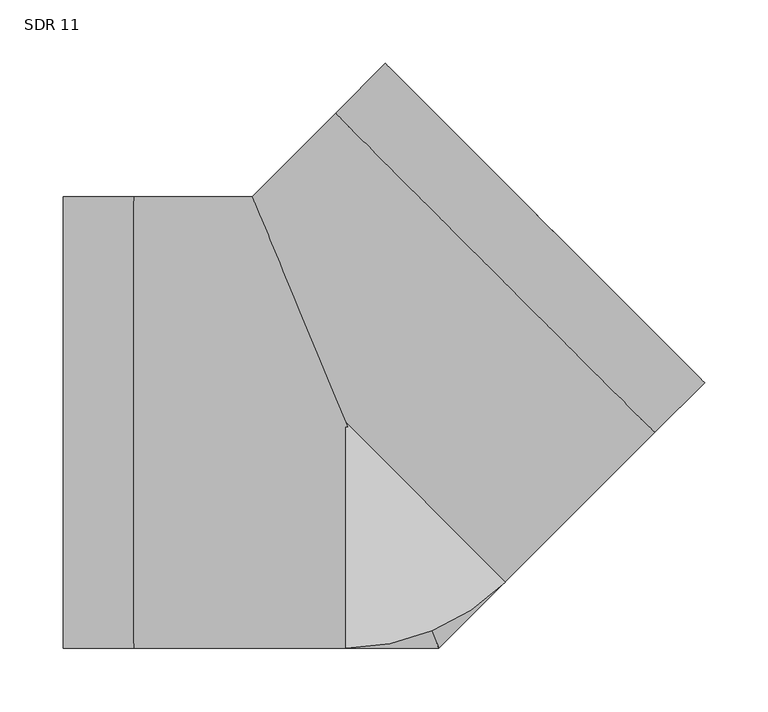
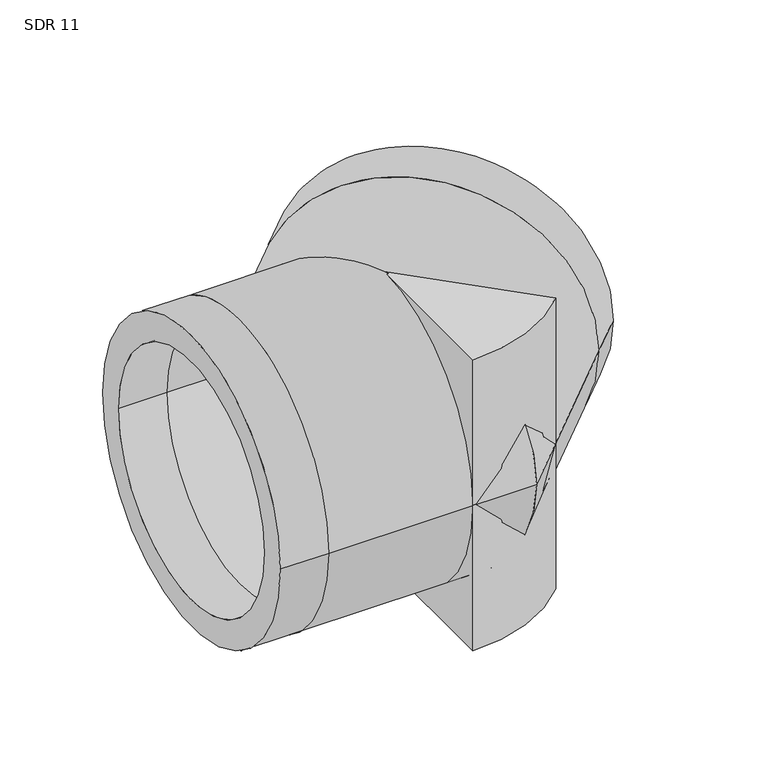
"""IFC4 building model written with IfcOpenShell, lengths in millimetres: pipe fitting geometry, Aquatherm - Elbow Blue BW Segmented : SDR 11."""

from ifc_helpers import new_model, si_unit, point, frame, origin, origin_with_axes, origin_2d, place, context, project, spatial, polyline, circle_curve, ellipse_curve, trimmed, segment, composite_curve, outline, extrude, source, transform, mapped, element, save
from ifc_brep_helpers import plane_surface, cylinder_surface, revolved_surface, advanced_brep


def sdr_11_767b1a7a(model_context):
    return source(origin(), model_context, "Body", "SolidModel", [
        extrude(outline(composite_curve([segment(polyline([(0.0, -177.8), (0.0, 0.0), (125.7235857, -125.7235857)]), True, "CONTINUOUS"), segment(trimmed(circle_curve(origin_2d(), 177.8), [point((125.7235857, -125.7235857))], [point((0.0, -177.8))], False, "CARTESIAN"), True, "CONTINUOUS")], self_intersect=False)), frame((0.0, 0.0, -177.8), z_axis=(0.0, 0.0, 1.0), x_axis=(1.0, 0.0, 0.0)), (0.0, 0.0, 1.0), 177.8),
        extrude(outline(composite_curve([segment(trimmed(circle_curve(origin_2d(), 177.8), [point((125.7235857, -125.7235857))], [point((0.0, -177.8))], False, "CARTESIAN"), True, "CONTINUOUS"), segment(polyline([(0.0, -177.8), (0.0, 0.0), (125.7235857, -125.7235857)]), True, "CONTINUOUS")], self_intersect=False)), origin_with_axes(), (0.0, 0.0, 1.0), 177.8),
        advanced_brep(
        [(-222.25, -177.8, 0.0), (-222.25, 177.8, 0.0), (-222.25, -145.4727273, 0.0), (-222.25, 145.4727273, 0.0), (282.8780678, 31.4308964, 0.0), (31.4308964, 282.8780678, 0.0), (260.0192341, 54.2897302, 0.0), (54.2897302, 260.0192341, 0.0), (-166.6875, -177.8, 0.0), (-166.6875, 177.8, 0.0), (-166.6875, -145.4727273, 0.0), (-166.6875, 145.4727273, 0.0), (73.6471714, -177.8, 0.0), (-73.6471714, 177.8, 0.0), (60.2567766, -145.4727273, 0.0), (-60.2567766, 145.4727273, 0.0), (243.5894473, -7.8577241, 0.0), (-7.8577241, 243.5894473, 0.0), (220.7306135, 15.0011097, 0.0), (15.0011097, 220.7306135, 0.0)],
        [
            (0, 1, circle_curve(frame((-222.25, 0.0, 0.0), z_axis=(-1.0, 0.0, 0.0), x_axis=(0.0, 1.0, 0.0)), 177.8)),
            (1, 0, circle_curve(frame((-222.25, 0.0, 0.0), z_axis=(-1.0, 0.0, 0.0), x_axis=(0.0, 1.0, 0.0)), 177.8)),
            (2, 3, circle_curve(frame((-222.25, 0.0, 0.0), z_axis=(1.0, 0.0, 0.0), x_axis=(0.0, 1.0, 0.0)), 145.4727273)),
            (3, 2, circle_curve(frame((-222.25, 0.0, 0.0), z_axis=(1.0, 0.0, 0.0), x_axis=(0.0, 1.0, 0.0)), 145.4727273)),
            (4, 5, circle_curve(frame((157.1544821, 157.1544821, 0.0), z_axis=(0.7071067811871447, 0.7071067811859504, 0.0), x_axis=(-0.7071067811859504, 0.7071067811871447, 0.0)), 177.8)),
            (5, 4, circle_curve(frame((157.1544821, 157.1544821, 0.0), z_axis=(0.7071067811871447, 0.7071067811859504, 0.0), x_axis=(-0.7071067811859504, 0.7071067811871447, 0.0)), 177.8)),
            (6, 7, circle_curve(frame((157.1544821, 157.1544821, 0.0), z_axis=(-0.7071067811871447, -0.7071067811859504, 0.0), x_axis=(-0.7071067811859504, 0.7071067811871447, 0.0)), 145.4727273)),
            (7, 6, circle_curve(frame((157.1544821, 157.1544821, 0.0), z_axis=(-0.7071067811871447, -0.7071067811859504, 0.0), x_axis=(-0.7071067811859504, 0.7071067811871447, 0.0)), 145.4727273)),
            (0, 8),
            (8, 9, circle_curve(frame((-166.6875, 0.0, 0.0), z_axis=(-1.0, 0.0, 0.0), x_axis=(0.0, 1.0, 0.0)), 177.8)),
            (9, 1),
            (9, 8, circle_curve(frame((-166.6875, 0.0, 0.0), z_axis=(-1.0, 0.0, 0.0), x_axis=(0.0, 1.0, 0.0)), 177.8)),
            (2, 10),
            (10, 11, circle_curve(frame((-166.6875, 0.0, 0.0), z_axis=(1.0, 0.0, 0.0), x_axis=(0.0, 1.0, 0.0)), 145.4727273)),
            (11, 3),
            (11, 10, circle_curve(frame((-166.6875, 0.0, 0.0), z_axis=(1.0, 0.0, 0.0), x_axis=(0.0, 1.0, 0.0)), 145.4727273)),
            (8, 12),
            (12, 13, ellipse_curve(frame((0.0, 0.0, 0.0), z_axis=(-0.9238795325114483, -0.38268343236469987, 0.0), x_axis=(-0.3826834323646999, 0.9238795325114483, 0.0)), 192.4493332, 177.8)),
            (13, 9),
            (13, 12, ellipse_curve(frame((0.0, 0.0, 0.0), z_axis=(-0.9238795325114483, -0.38268343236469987, 0.0), x_axis=(-0.3826834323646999, 0.9238795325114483, 0.0)), 192.4493332, 177.8)),
            (10, 14),
            (14, 15, ellipse_curve(frame((0.0, 0.0, 0.0), z_axis=(0.9238795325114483, 0.38268343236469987, 0.0), x_axis=(0.3826834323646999, -0.9238795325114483, 0.0)), 157.4585454, 145.4727273)),
            (15, 11),
            (15, 14, ellipse_curve(frame((0.0, 0.0, 0.0), z_axis=(0.9238795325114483, 0.38268343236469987, 0.0), x_axis=(0.3826834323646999, -0.9238795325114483, 0.0)), 157.4585454, 145.4727273)),
            (12, 16),
            (16, 17, circle_curve(frame((117.8658616, 117.8658616, 0.0), z_axis=(-0.7071067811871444, -0.7071067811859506, 0.0), x_axis=(-0.7071067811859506, 0.7071067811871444, 0.0)), 177.8)),
            (17, 13),
            (17, 16, circle_curve(frame((117.8658616, 117.8658616, 0.0), z_axis=(-0.7071067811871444, -0.7071067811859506, 0.0), x_axis=(-0.7071067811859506, 0.7071067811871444, 0.0)), 177.8)),
            (14, 18),
            (18, 19, circle_curve(frame((117.8658616, 117.8658616, 0.0), z_axis=(0.7071067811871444, 0.7071067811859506, 0.0), x_axis=(-0.7071067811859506, 0.7071067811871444, 0.0)), 145.4727273)),
            (19, 15),
            (19, 18, circle_curve(frame((117.8658616, 117.8658616, 0.0), z_axis=(0.7071067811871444, 0.7071067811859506, 0.0), x_axis=(-0.7071067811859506, 0.7071067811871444, 0.0)), 145.4727273)),
            (16, 4),
            (5, 17),
            (18, 6),
            (7, 19),
        ],
        [
            plane_surface(frame((-222.25, 0.0, 0.0), z_axis=(-1.0, 0.0, 0.0), x_axis=(0.0, 0.0, 1.0))),
            plane_surface(frame((157.1544821, 157.1544821, 0.0), z_axis=(0.7071067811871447, 0.7071067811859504, 0.0), x_axis=(0.0, 0.0, 1.0))),
            cylinder_surface(frame((-222.25, 0.0, 0.0), z_axis=(-1.0, 0.0, 0.0), x_axis=(0.0, 1.0, 0.0)), 177.8),
            revolved_surface(polyline([(-166.6875, 145.4727273, 0.0), (-222.25, 145.4727273, 0.0)]), (-222.25, 0.0, 0.0), (1.0, 0.0, 0.0)),
            cylinder_surface(frame((-166.6875, 0.0, 0.0), z_axis=(-1.0, 0.0, 0.0), x_axis=(0.0, 1.0, 0.0)), 177.8),
            revolved_surface(polyline([(60.256776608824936, 145.4727273, 0.0), (-166.6875, 145.4727273, 0.0)]), (-166.6875, 0.0, 0.0), (1.0, 0.0, 0.0)),
            cylinder_surface(frame((0.0, 0.0, 0.0), z_axis=(-0.7071067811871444, -0.7071067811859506, 0.0), x_axis=(-0.7071067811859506, 0.7071067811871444, 0.0)), 177.8),
            revolved_surface(polyline([(15.001109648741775, 220.7306135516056, 0.0), (-145.47272730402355, 60.256776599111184, 0.0)]), (0.0, 0.0, 0.0), (0.7071067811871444, 0.7071067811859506, 0.0)),
            cylinder_surface(frame((117.8658616, 117.8658616, 0.0), z_axis=(-0.7071067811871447, -0.7071067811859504, 0.0), x_axis=(-0.7071067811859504, 0.7071067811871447, 0.0)), 177.8),
            revolved_surface(polyline([(54.28973019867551, 260.01923410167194, 0.0), (15.0011096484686, 220.7306135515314, 0.0)]), (117.8658616, 117.8658616, 0.0), (0.7071067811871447, 0.7071067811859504, 0.0)),
        ],
        [
            (0, [[1, 2], [3, 4]]),
            (1, [[5, 6], [7, 8]]),
            (2, [[-1, 9, 10, 11]]),
            (2, [[-2, -11, 12, -9]]),
            (3, [[-3, 13, 14, 15]]),
            (3, [[-4, -15, 16, -13]]),
            (4, [[-10, 17, 18, 19]]),
            (4, [[-12, -19, 20, -17]]),
            (5, [[-14, 21, 22, 23]]),
            (5, [[-16, -23, 24, -21]]),
            (6, [[-18, 25, 26, 27]]),
            (6, [[-20, -27, 28, -25]]),
            (7, [[-22, 29, 30, 31]]),
            (7, [[-24, -31, 32, -29]]),
            (8, [[-26, 33, -6, 34]]),
            (8, [[-28, -34, -5, -33]]),
            (9, [[-30, 35, -8, 36]]),
            (9, [[-32, -36, -7, -35]]),
        ],
    ),
    ])


if __name__ == "__main__":
    model = new_model("IFC4")
    model_context = context("Model", 3, world=origin())
    ifc_project = project(units=[si_unit("LENGTHUNIT", "METRE", prefix="MILLI")], contexts=[model_context])
    site = spatial("IfcSite", under=ifc_project)
    building = spatial("IfcBuilding", under=site)
    placement = place(None, origin())
    sdr_11_shape = sdr_11_767b1a7a(model_context)
    element("IfcPipeFitting", 1, ObjectType="Aquatherm - Elbow Blue BW Segmented : SDR 11", at=placement, inside=building, context=model_context, shape_type="MappedRepresentation", body=[
        mapped(sdr_11_shape, transform((0.0, 0.0, 0.0), x_axis=(1.0, 0.0, 0.0), y_axis=(0.0, 1.0, 0.0), z_axis=(0.0, 0.0, 1.0))),
    ])
    save(model, "model.ifc")
